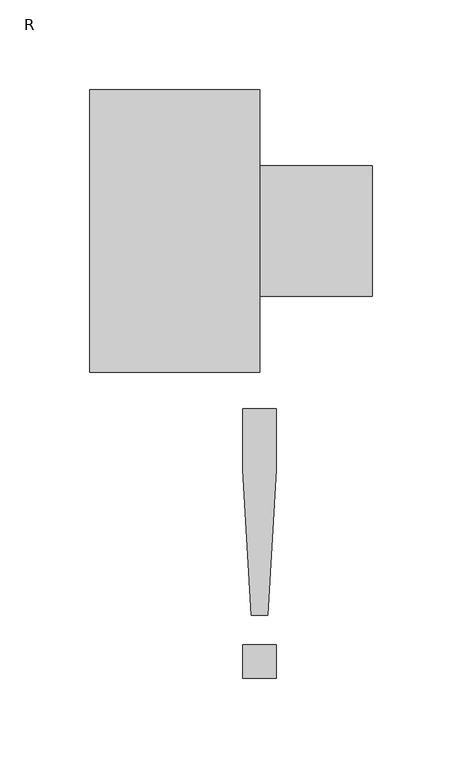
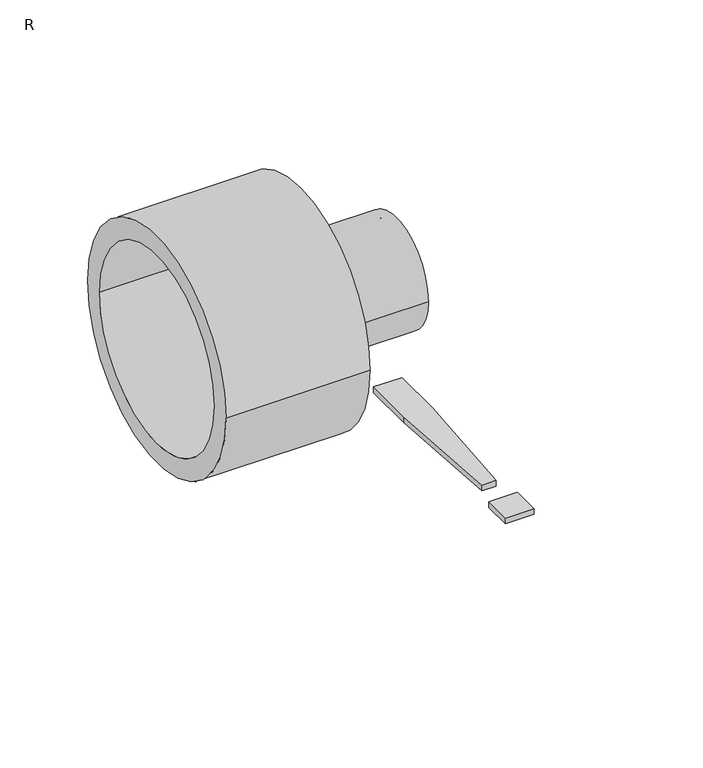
"""IFC4 building model written with IfcOpenShell, lengths in millimetres: pipe fitting geometry, FUSAPEX reducer : R."""

from ifc_helpers import new_model, si_unit, frame, origin, origin_with_axes, place, context, project, spatial, polyline, circle_curve, outline, extrude, source, transform, mapped, element, save
from ifc_brep_helpers import plane_surface, cylinder_surface, revolved_surface, advanced_brep


def r_0da97ad1(model_context):
    return source(origin(), model_context, "Body", "SolidModel", [
        extrude(outline(polyline([(-4.7088895, -214.6833285), (-9.4177791, -133.3446193), (-9.4177791, -99.3155348), (9.4177791, -99.3155348), (9.4177791, -133.3446193), (4.7088895, -214.6833285), (-4.7088895, -214.6833285)])), origin_with_axes(), (0.0, 0.0, 1.0), 4.0),
        extrude(outline(polyline([(-9.4177791, -250.0), (-9.4177791, -231.1644418), (9.4177791, -231.1644418), (9.4177791, -250.0), (-9.4177791, -250.0)])), origin_with_axes(), (0.0, 0.0, 1.0), 4.0),
        advanced_brep(
        [(-95.0, 65.4, 0.0), (-95.0, -65.4, 0.0), (-14.6, -65.4, 0.0), (-14.6, 65.4, 0.0), (0.0, 79.0, 0.0), (0.0, -79.0, 0.0), (-95.0, -79.0, 0.0), (-95.0, 79.0, 0.0), (63.0, 36.5, 0.0), (63.0, -36.5, 0.0), (0.0, -36.5, 0.0), (0.0, 36.5, 0.0), (-14.6, 30.7, 0.0), (-14.6, -30.7, 0.0), (63.0, -30.7, 0.0), (63.0, 30.7, 0.0)],
        [
            (0, 1, circle_curve(frame((-95.0, 0.0, 0.0), z_axis=(-1.0, 0.0, 0.0), x_axis=(0.0, -1.0, 0.0)), 65.4)),
            (1, 2),
            (2, 3, circle_curve(frame((-14.6, 0.0, 0.0), z_axis=(1.0, 0.0, 0.0), x_axis=(0.0, -1.0, 0.0)), 65.4)),
            (3, 0),
            (4, 5, circle_curve(frame((0.0, 0.0, 0.0), z_axis=(-1.0, 0.0, 0.0), x_axis=(0.0, -1.0, 0.0)), 79.0)),
            (5, 6),
            (6, 7, circle_curve(frame((-95.0, 0.0, 0.0), z_axis=(1.0, 0.0, 0.0), x_axis=(0.0, -1.0, 0.0)), 79.0)),
            (7, 4),
            (8, 9, circle_curve(frame((63.0, 0.0, 0.0), z_axis=(-1.0, 0.0, 0.0), x_axis=(0.0, -1.0, 0.0)), 36.5)),
            (9, 10),
            (10, 11, circle_curve(frame((0.0, 0.0, 0.0), z_axis=(1.0, 0.0, 0.0), x_axis=(0.0, -1.0, 0.0)), 36.5)),
            (11, 8),
            (12, 13, circle_curve(frame((-14.6, 0.0, 0.0), z_axis=(-1.0, 0.0, 0.0), x_axis=(0.0, -1.0, 0.0)), 30.7)),
            (13, 14),
            (14, 15, circle_curve(frame((63.0, 0.0, 0.0), z_axis=(1.0, 0.0, 0.0), x_axis=(0.0, -1.0, 0.0)), 30.7)),
            (15, 12),
            (1, 0, circle_curve(frame((-95.0, 0.0, 0.0), z_axis=(-1.0, 0.0, 0.0), x_axis=(0.0, 1.0, 0.0)), 65.4)),
            (3, 2, circle_curve(frame((-14.6, 0.0, 0.0), z_axis=(1.0, 0.0, 0.0), x_axis=(0.0, 1.0, 0.0)), 65.4)),
            (6, 7, circle_curve(frame((-95.0, 0.0, 0.0), z_axis=(-1.0, 0.0, 0.0), x_axis=(0.0, 1.0, 0.0)), 79.0)),
            (5, 4, circle_curve(frame((0.0, 0.0, 0.0), z_axis=(-1.0, 0.0, 0.0), x_axis=(0.0, 1.0, 0.0)), 79.0)),
            (10, 11, circle_curve(frame((0.0, 0.0, 0.0), z_axis=(-1.0, 0.0, 0.0), x_axis=(0.0, 1.0, 0.0)), 36.5)),
            (9, 8, circle_curve(frame((63.0, 0.0, 0.0), z_axis=(-1.0, 0.0, 0.0), x_axis=(0.0, 1.0, 0.0)), 36.5)),
            (14, 15, circle_curve(frame((63.0, 0.0, 0.0), z_axis=(-1.0, 0.0, 0.0), x_axis=(0.0, 1.0, 0.0)), 30.7)),
            (13, 12, circle_curve(frame((-14.6, 0.0, 0.0), z_axis=(-1.0, 0.0, 0.0), x_axis=(0.0, 1.0, 0.0)), 30.7)),
        ],
        [
            revolved_surface(polyline([(-14.6, -65.4, 0.0), (-95.0, -65.4, 0.0)]), (0.0, 0.0, 0.0), (1.0, 0.0, 0.0)),
            cylinder_surface(frame((0.0, 0.0, 0.0), z_axis=(1.0, 0.0, 0.0), x_axis=(0.0, -1.0, 0.0)), 79.0),
            cylinder_surface(frame((0.0, 0.0, 0.0), z_axis=(1.0, 0.0, 0.0), x_axis=(0.0, -1.0, 0.0)), 36.5),
            revolved_surface(polyline([(63.0, -30.7, 0.0), (-14.6, -30.7, 0.0)]), (0.0, 0.0, 0.0), (1.0, 0.0, 0.0)),
            revolved_surface(polyline([(-14.6, 65.4, 0.0), (-95.0, 65.4, 0.0)]), (0.0, 0.0, 0.0), (1.0, 0.0, 0.0)),
            plane_surface(frame((-95.0, 0.0, 0.0), z_axis=(-1.0, 0.0, 0.0), x_axis=(0.0, 1.0, 0.0))),
            cylinder_surface(frame((0.0, 0.0, 0.0), z_axis=(1.0, 0.0, 0.0), x_axis=(0.0, 1.0, 0.0)), 79.0),
            plane_surface(frame((0.0, 0.0, 0.0), z_axis=(1.0, 0.0, 0.0), x_axis=(0.0, 1.0, 0.0))),
            cylinder_surface(frame((0.0, 0.0, 0.0), z_axis=(1.0, 0.0, 0.0), x_axis=(0.0, 1.0, 0.0)), 36.5),
            plane_surface(frame((63.0, 0.0, 0.0), z_axis=(1.0, 0.0, 0.0), x_axis=(0.0, 1.0, 0.0))),
            revolved_surface(polyline([(63.0, 30.7, 0.0), (-14.6, 30.7, 0.0)]), (0.0, 0.0, 0.0), (1.0, 0.0, 0.0)),
            plane_surface(frame((-14.6, 0.0, 0.0), z_axis=(-1.0, 0.0, 0.0), x_axis=(0.0, 1.0, 0.0))),
        ],
        [
            (0, [[1, 2, 3, 4]]),
            (1, [[5, 6, 7, 8]]),
            (2, [[9, 10, 11, 12]]),
            (3, [[13, 14, 15, 16]]),
            (4, [[17, -4, 18, -2]]),
            (5, [[19, -7], [-17, -1]]),
            (6, [[20, -8, -19, -6]]),
            (7, [[-20, -5], [21, -11]]),
            (8, [[22, -12, -21, -10]]),
            (9, [[-22, -9], [23, -15]]),
            (10, [[24, -16, -23, -14]]),
            (11, [[-18, -3], [-24, -13]]),
        ],
    ),
    ])


if __name__ == "__main__":
    model = new_model("IFC4")
    model_context = context("Model", 3, world=origin())
    ifc_project = project(units=[si_unit("LENGTHUNIT", "METRE", prefix="MILLI")], contexts=[model_context])
    site = spatial("IfcSite", under=ifc_project)
    building = spatial("IfcBuilding", under=site)
    placement = place(None, origin())
    r_shape = r_0da97ad1(model_context)
    element("IfcPipeFitting", 1, ObjectType="FUSAPEX reducer : R", at=placement, inside=building, context=model_context, shape_type="MappedRepresentation", body=[
        mapped(r_shape, transform((0.0, 0.0, 0.0), x_axis=(1.0, 0.0, 0.0), y_axis=(0.0, 1.0, 0.0), z_axis=(0.0, 0.0, 1.0))),
    ])
    save(model, "model.ifc")
